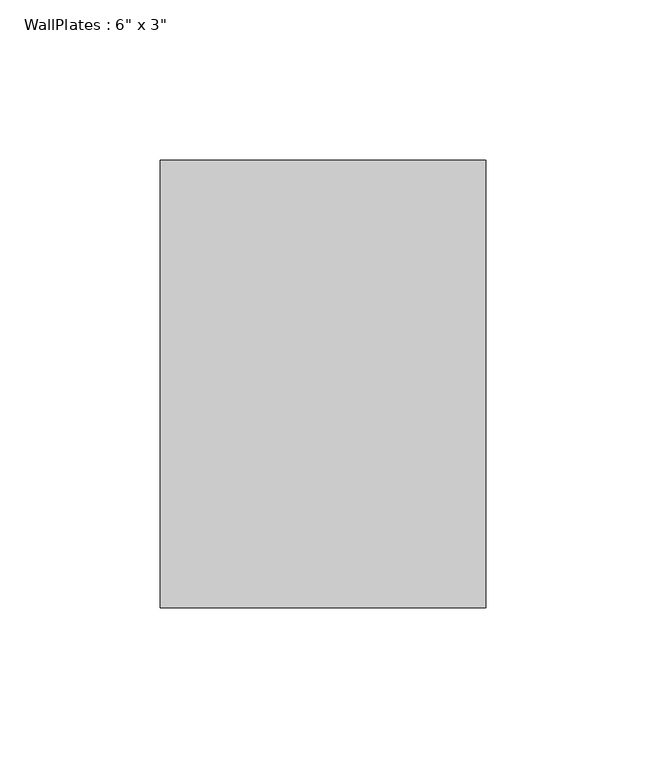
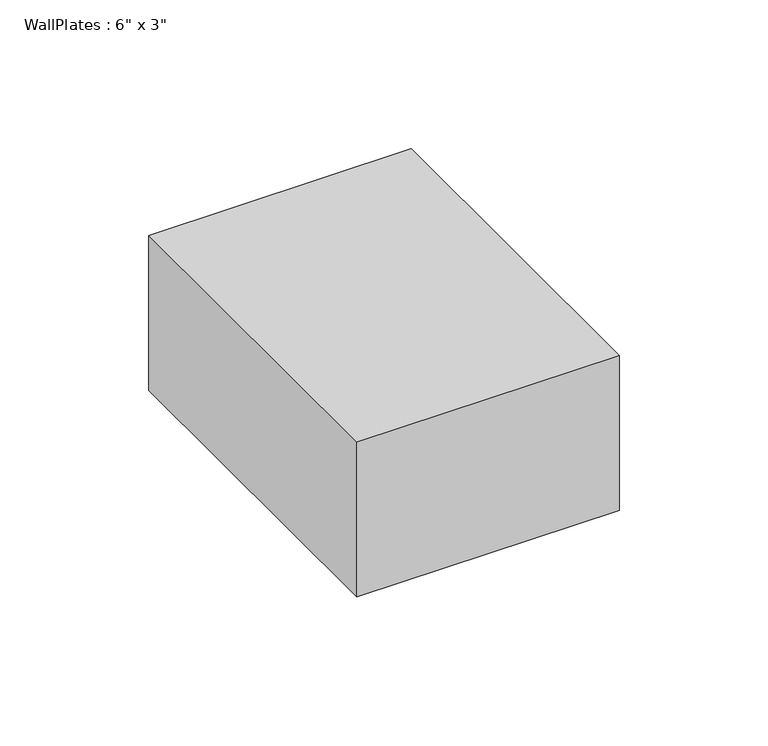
"""IFC4 building model written with IfcOpenShell, lengths in millimetres: beam geometry."""

from ifc_helpers import new_model, si_unit, frame, origin, place, context, project, spatial, polyline, outline, extrude, source, transform, mapped, element, save


def beam_ad39f8b9(model_context):
    return source(origin(), model_context, "Body", "SweptSolid", [
        extrude(outline(polyline([(-50.8, -69.85), (-50.8, 69.85), (50.8, 69.85), (50.8, -69.85), (-50.8, -69.85)])), frame((0.0, 0.0, -31.75), z_axis=(0.0, 0.0, 1.0), x_axis=(1.0, 0.0, 0.0)), (0.0, 0.0, 1.0), 63.5),
    ])


if __name__ == "__main__":
    model = new_model("IFC4")
    model_context = context("Model", 3, world=origin())
    ifc_project = project(units=[si_unit("LENGTHUNIT", "METRE", prefix="MILLI")], contexts=[model_context])
    site = spatial("IfcSite", under=ifc_project)
    building = spatial("IfcBuilding", under=site)
    placement = place(None, origin())
    beam_shape = beam_ad39f8b9(model_context)
    element("IfcBeam", 1, ObjectType="WallPlates : 6\" x 3\"", at=placement, inside=building, context=model_context, shape_type="MappedRepresentation", body=[
        mapped(beam_shape, transform((0.0, 0.0, 0.0), x_axis=(1.0, 0.0, 0.0), y_axis=(0.0, 1.0, 0.0), z_axis=(0.0, 0.0, 1.0))),
    ])
    save(model, "model.ifc")
